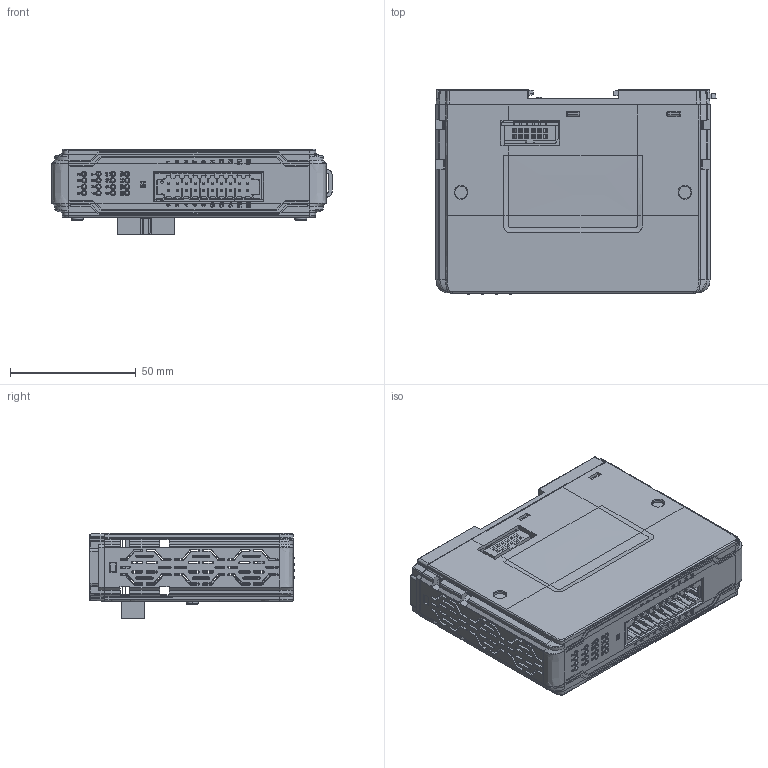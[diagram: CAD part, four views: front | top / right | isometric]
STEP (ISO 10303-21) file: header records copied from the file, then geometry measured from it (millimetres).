
FILE_DESCRIPTION (( 'STEP AP203' ), '1' );
FILE_NAME ('iR-DI16-K..STEP', '2018-03-27T05:16:37', ( '' ), ( '' ), 'SwSTEP 2.0', 'SolidWorks 2011', '' );
FILE_SCHEMA (( 'CONFIG_CONTROL_DESIGN' ));
Products named in the file (1): iR-DI16-K.
Bounding box: 111.4 x 81.42 x 33.96 mm (x, y, z)
Surface area: 65595.3 mm2 (no closed solid volume)
Topology: 0 solids, 69 shells, 2317 faces, 9139 edges, 6779 vertices
Faces by surface type: plane 1503, cone 440, cylinder 230, bspline 110, torus 34
Entity records: 105331 total; most frequent: CARTESIAN_POINT 33192, ORIENTED_EDGE 14429, DIRECTION 13373, EDGE_CURVE 9125, VERTEX_POINT 6779, LINE 6159, VECTOR 6159, AXIS2_PLACEMENT_3D 3607
